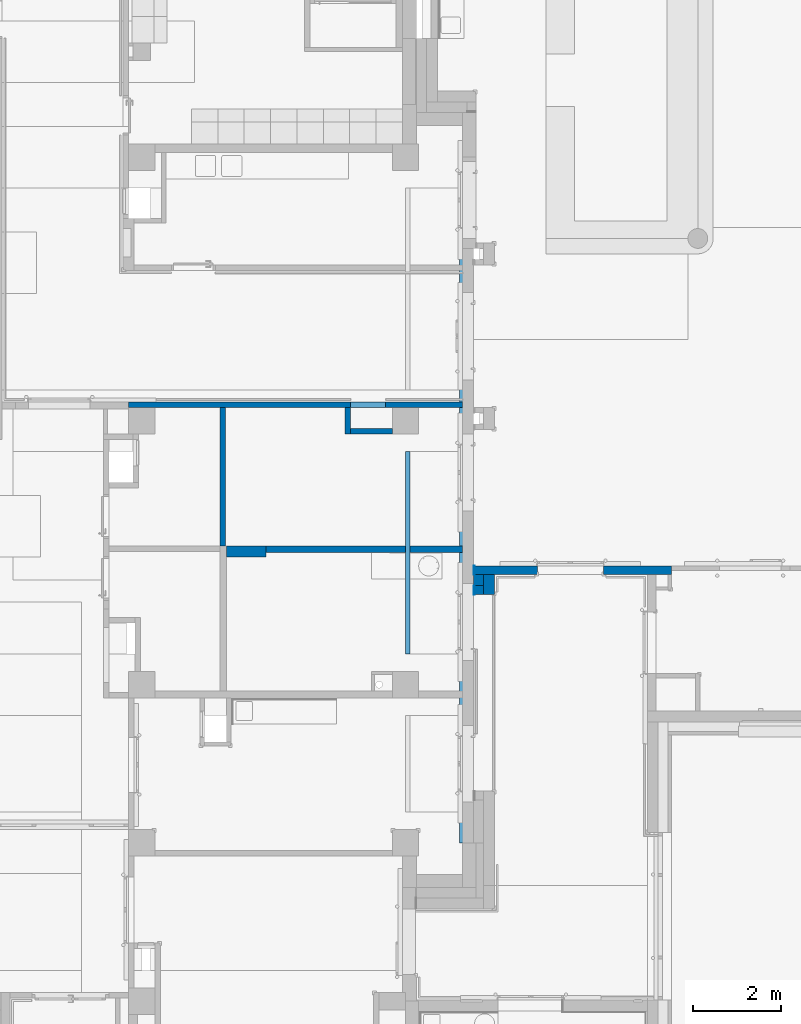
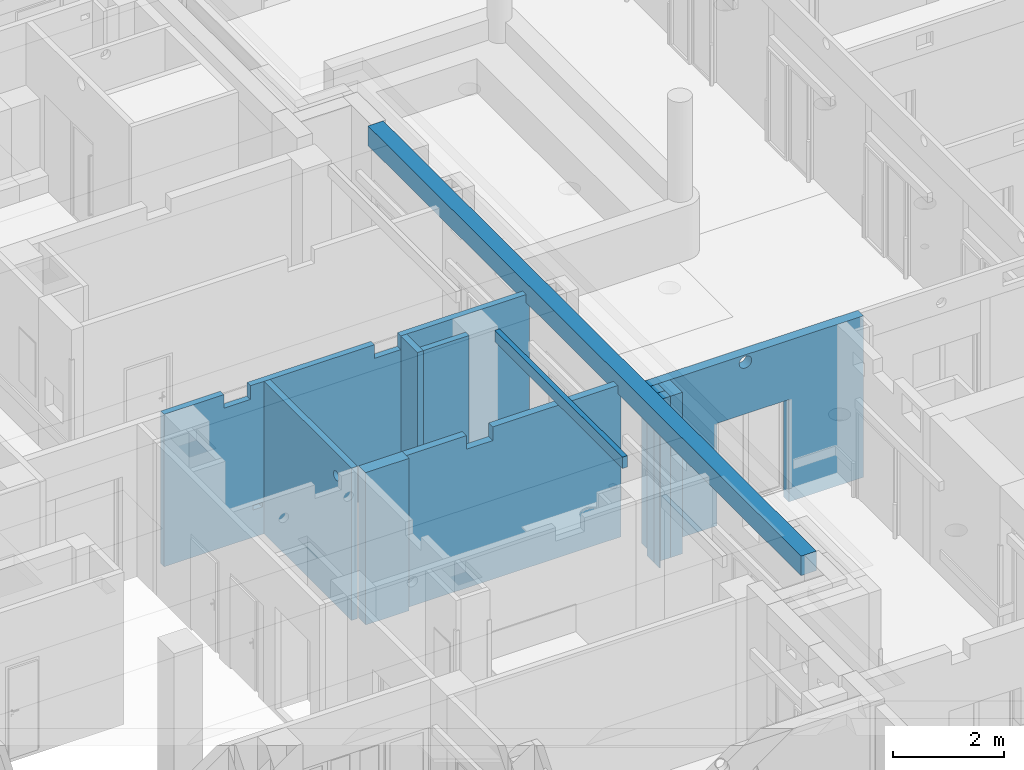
# One storey, part 42 of 140: 14 walls, 10 openings.
"""IFC4 building model written with IfcOpenShell, lengths in metres."""

from ifc_helpers import new_model, entity, si_unit, converted_unit, derived_unit, frame, frame_2d, origin, origin_with_axes, place, context, subcontext, project, spatial, polyline, rectangle, outline, extrude, material, layer, layer_set, layer_usage, element, save


model = new_model("IFC4")

# Units and contexts
model_context = context("Model", 3, precision=1e-05, world=origin())
body_context = subcontext(model_context, "Body", "Model", "MODEL_VIEW")
ifc_project = project(units=[si_unit("LENGTHUNIT", "METRE"), si_unit("AREAUNIT", "SQUARE_METRE"), si_unit("VOLUMEUNIT", "CUBIC_METRE"), si_unit("MASSUNIT", "GRAM", prefix="KILO"), converted_unit("PLANEANGLEUNIT", "DEGREE", entity("IfcPlaneAngleMeasure", 0.0174532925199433), si_unit("PLANEANGLEUNIT", "RADIAN"), dimensions=[0, 0, 0, 0, 0, 0, 0]), derived_unit("THERMALTRANSMITTANCEUNIT", [(si_unit("POWERUNIT", "WATT"), 1), (si_unit("THERMODYNAMICTEMPERATUREUNIT", "KELVIN"), -1), (si_unit("LENGTHUNIT", "METRE"), -2)]), derived_unit("VOLUMETRICFLOWRATEUNIT", [(si_unit("LENGTHUNIT", "METRE"), 3), (converted_unit("TIMEUNIT", "hour", entity("IfcTimeMeasure", 3600.0), si_unit("TIMEUNIT", "SECOND"), dimensions=[0, 0, 1, 0, 0, 0, 0]), -1), (si_unit("LENGTHUNIT", "METRE"), -1)])], contexts=[model_context])

# Site, building, storey
site_placement = place(None, origin())
site = spatial("IfcSite", under=ifc_project, at=site_placement, Name="3. ASŘ", CompositionType="ELEMENT")
building_placement = place(site_placement, origin())
building = spatial("IfcBuilding", under=site, at=building_placement, Name="Pavilon C", CompositionType="ELEMENT")
storey_placement = place(building_placement, origin())
storey = spatial("IfcBuildingStorey", under=building, at=storey_placement, Name="Půdorys 1.NP", CompositionType="ELEMENT", Elevation=0.0)

# Walls
ifc_material_1 = material(Name="EPS")
ifc_layer_1 = layer(ifc_material_1, 0.1)
ifc_layer_set_1 = layer_set([ifc_layer_1])
ifc_layer_usage_1 = layer_usage(ifc_layer_set_1, "AXIS2", "POSITIVE", 0.0)
wall_1_placement = place(storey_placement, frame((49.95, 12.5, 3.25), z_axis=(0.0, 0.0, 1.0), x_axis=(0.0, -1.0, 0.0)))
element("IfcWall", 1, at=wall_1_placement, inside=storey, material=ifc_layer_usage_1, Name="EPS", context=body_context, shape_type="SweptSolid", body=[
    extrude(rectangle(XDim=4.6, YDim=0.1, at=frame_2d((2.3, 0.05), x_axis=(1.0, 0.0))), origin_with_axes(), (0.0, 0.0, 1.0), 0.25),
])
ifc_material_2 = material(Name="ZELEZOBETONOVÁ KCE")
ifc_layer_2 = layer(ifc_material_2, 0.32)
ifc_layer_set_2 = layer_set([ifc_layer_2])
ifc_layer_usage_2 = layer_usage(ifc_layer_set_2, "AXIS2", "POSITIVE", 0.0)
wall_2_placement = place(storey_placement, frame((51.5, 3.6, 3.07), z_axis=(0.0, 0.0, 1.0), x_axis=(0.0, 1.0, 0.0)))
element("IfcWall", 2, at=wall_2_placement, inside=storey, material=ifc_layer_usage_2, Name="ZELEZOBETONOVÁ KCE", context=body_context, shape_type="SweptSolid", body=[
    extrude(rectangle(XDim=15.6, YDim=0.32, at=frame_2d((7.8, 0.16), x_axis=(1.0, 0.0))), origin_with_axes(), (0.0, 0.0, 1.0), 0.43),
])
ifc_material_3 = material(Name="ZELEZOBETONOVÁ KCE")
ifc_layer_3 = layer(ifc_material_3, 0.25)
ifc_layer_set_3 = layer_set([ifc_layer_3])
ifc_layer_usage_3 = layer_usage(ifc_layer_set_3, "AXIS2", "POSITIVE", -0.25)
wall_3_placement = place(storey_placement, frame((51.98, 9.24999999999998, -0.15), z_axis=(0.0, 0.0, 1.0), x_axis=(0.0, 1.0, 0.0)))
element("IfcWall", 3, at=wall_3_placement, inside=storey, material=ifc_layer_usage_3, Name="ZELEZOBETONOVÁ KCE", context=body_context, shape_type="SweptSolid", body=[
    extrude(rectangle(XDim=0.450000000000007, YDim=0.25, at=frame_2d((0.225000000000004, 0.125), x_axis=(1.0, 0.0))), origin_with_axes(), (0.0, 0.0, 1.0), 3.55),
])

# Wall, openings
ifc_material_4 = material(Name="ZELEZOBETONOVÁ KCE")
ifc_layer_4 = layer(ifc_material_4, 0.2)
ifc_layer_set_4 = layer_set([ifc_layer_4])
ifc_layer_usage_4 = layer_usage(ifc_layer_set_4, "AXIS2", "POSITIVE", 0.0)
wall_4_placement = place(storey_placement, frame((56.0, 9.89999999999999, -0.15), z_axis=(0.0, 0.0, 1.0), x_axis=(-1.0, -1.62409768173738e-15, 0.0)))
wall_4 = element("IfcWall", 4, at=wall_4_placement, inside=storey, material=ifc_layer_usage_4, Name="ZELEZOBETONOVÁ KCE", context=body_context, shape_type="SweptSolid", body=[
    extrude(rectangle(XDim=4.47999999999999, YDim=0.2, at=frame_2d((2.23999999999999, 0.1), x_axis=(1.0, 0.0))), origin_with_axes(), (0.0, 0.0, 1.0), 3.55),
])
opening_1_placement = place(wall_4_placement, frame((3.05000000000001, 0.199999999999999, 0.0), z_axis=(-2.27373675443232e-15, -1.0, 0.0), x_axis=(0.0, 0.0, 1.0)))
element("IfcOpeningElement", 5, at=opening_1_placement, cuts=wall_4, Name="Dveřní otvor", ObjectType="Opening", context=body_context, shape_type="SweptSolid", body=[
    extrude(outline(polyline([(0.0, 1.5), (2.25, 1.5), (2.25, 0.0), (0.0, 0.0), (0.0, 1.5)])), origin_with_axes(), (0.0, 0.0, 1.0), 0.2),
])
opening_2_placement = place(wall_4_placement, frame((2.3228945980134, -4.37903746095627e-14, 3.26), z_axis=(2.27373675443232e-15, 1.0, 0.0), x_axis=(0.0, 0.0, 1.0)))
element("IfcOpeningElement", 6, at=opening_2_placement, cuts=wall_4, Name="VZT", ObjectType="Opening", context=body_context, shape_type="SweptSolid", body=[
    extrude(outline(polyline([(0.13, 0.26), (0.143588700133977, 0.259287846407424), (0.157028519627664, 0.257159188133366), (0.170172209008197, 0.253637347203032), (0.182875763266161, 0.248760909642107), (0.194999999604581, 0.242583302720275), (0.206412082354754, 0.235172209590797), (0.216986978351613, 0.226608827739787), (0.226608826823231, 0.216986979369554), (0.235172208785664, 0.206412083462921), (0.242583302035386, 0.195000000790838), (0.248760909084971, 0.182875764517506), (0.253637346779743, 0.170172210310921), (0.257159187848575, 0.157028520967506), (0.259287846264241, 0.14358870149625), (0.26, 0.130000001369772), (0.259287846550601, 0.116411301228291), (0.257159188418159, 0.102971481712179), (0.25363734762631, 0.0898277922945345), (0.248760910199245, 0.0771242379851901), (0.242583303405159, 0.0650000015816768), (0.235172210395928, 0.0535879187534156), (0.226608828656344, 0.0430130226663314), (0.216986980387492, 0.0333911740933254), (0.206412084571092, 0.0248277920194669), (0.195000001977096, 0.0174166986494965), (0.18287576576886, 0.0112390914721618), (0.170172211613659, 0.0063626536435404), (0.157028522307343, 0.00284081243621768), (0.143588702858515, 0.000712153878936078), (0.129999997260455, 0.0), (0.116411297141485, 0.000712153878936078), (0.102971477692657, 0.00284081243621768), (0.0898277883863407, 0.0063626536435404), (0.0771242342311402, 0.0112390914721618), (0.0649999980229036, 0.0174166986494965), (0.0535879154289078, 0.0248277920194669), (0.0430130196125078, 0.0333911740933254), (0.0333911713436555, 0.0430130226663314), (0.0248277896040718, 0.0535879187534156), (0.0174166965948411, 0.0650000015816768), (0.0112390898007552, 0.0771242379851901), (0.00636265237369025, 0.0898277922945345), (0.00284081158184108, 0.102971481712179), (0.000712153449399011, 0.116411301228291), (0.0, 0.130000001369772), (0.00071215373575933, 0.14358870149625), (0.00284081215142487, 0.157028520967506), (0.00636265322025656, 0.170172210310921), (0.011239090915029, 0.182875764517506), (0.0174166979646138, 0.195000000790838), (0.0248277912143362, 0.206412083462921), (0.0333911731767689, 0.216986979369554), (0.0430130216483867, 0.226608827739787), (0.0535879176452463, 0.235172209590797), (0.0650000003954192, 0.242583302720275), (0.0771242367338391, 0.248760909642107), (0.0898277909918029, 0.253637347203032), (0.102971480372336, 0.257159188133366), (0.116411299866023, 0.259287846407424), (0.13, 0.26)])), origin_with_axes(), (0.0, 0.0, 1.0), 0.2),
])

# Walls
ifc_material_5 = material(Name="ZELEZOBETONOVÁ KCE")
ifc_layer_5 = layer(ifc_material_5, 0.2)
ifc_layer_set_5 = layer_set([ifc_layer_5])
ifc_layer_usage_5 = layer_usage(ifc_layer_set_5, "AXIS2", "POSITIVE", -0.2)
wall_5_placement = place(storey_placement, frame((51.73, 9.44999999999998, -0.15), z_axis=(0.0, 0.0, 1.0), x_axis=(-1.0, 0.0, 0.0)))
element("IfcWall", 7, at=wall_5_placement, inside=storey, material=ifc_layer_usage_5, Name="ZELEZOBETONOVÁ KCE", context=body_context, shape_type="SweptSolid", body=[
    extrude(rectangle(XDim=0.21, YDim=0.2, at=frame_2d((0.105, 0.1), x_axis=(1.0, 0.0))), origin_with_axes(), (0.0, 0.0, 1.0), 3.55),
])
ifc_material_6 = material(Name="EPS")
ifc_layer_6 = layer(ifc_material_6, 0.02)
ifc_layer_set_6 = layer_set([ifc_layer_6])
ifc_layer_usage_6 = layer_usage(ifc_layer_set_6, "AXIS2", "POSITIVE", 0.0)
wall_6_placement = place(storey_placement, frame((51.52, 9.24999999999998, -0.3), z_axis=(0.0, 0.0, 1.0), x_axis=(0.0, 1.0, 0.0)))
element("IfcWall", 8, at=wall_6_placement, inside=storey, material=ifc_layer_usage_6, Name="EPS", context=body_context, shape_type="SweptSolid", body=[
    extrude(rectangle(XDim=0.2, YDim=0.02, at=frame_2d((0.1, 0.01), x_axis=(1.0, 0.0))), origin_with_axes(), (0.0, 0.0, 1.0), 3.7),
])
ifc_material_7 = material(Name="EPS")
ifc_layer_7 = layer(ifc_material_7, 0.02)
ifc_layer_set_7 = layer_set([ifc_layer_7])
ifc_layer_usage_7 = layer_usage(ifc_layer_set_7, "AXIS2", "POSITIVE", 0.0)
wall_7_placement = place(storey_placement, frame((51.52, 9.69999999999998, -0.15), z_axis=(0.0, 0.0, 1.0), x_axis=(0.0, 1.0, 0.0)))
element("IfcWall", 9, at=wall_7_placement, inside=storey, material=ifc_layer_usage_7, Name="EPS", context=body_context, shape_type="SweptSolid", body=[
    extrude(rectangle(XDim=0.199999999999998, YDim=0.02, at=frame_2d((0.0999999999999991, 0.01), x_axis=(1.0, 0.0))), origin_with_axes(), (0.0, 0.0, 1.0), 3.55),
])
ifc_material_8 = material(Name="EPS")
ifc_layer_8 = layer(ifc_material_8, 0.23)
ifc_layer_set_8 = layer_set([ifc_layer_8])
ifc_layer_usage_8 = layer_usage(ifc_layer_set_8, "AXIS2", "POSITIVE", 0.0)
wall_8_placement = place(storey_placement, frame((51.73, 9.44999999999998, -0.3), z_axis=(0.0, 0.0, 1.0), x_axis=(0.0, 1.0, 0.0)))
element("IfcWall", 10, at=wall_8_placement, inside=storey, material=ifc_layer_usage_8, Name="EPS", context=body_context, shape_type="SweptSolid", body=[
    extrude(rectangle(XDim=0.250000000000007, YDim=0.23, at=frame_2d((0.125000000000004, 0.115), x_axis=(1.0, 0.0))), origin_with_axes(), (0.0, 0.0, 1.0), 3.7),
])

# Wall, opening
ifc_material_9 = material(Name="SDK - 1 KCE + DVOJITÉ OPLÁŠTĚNÍ")
ifc_layer_9 = layer(ifc_material_9, 0.125)
ifc_layer_set_9 = layer_set([ifc_layer_9])
ifc_layer_usage_9 = layer_usage(ifc_layer_set_9, "AXIS2", "POSITIVE", 0.0)
wall_9_placement = place(storey_placement, frame((45.855, 10.35, -0.1), z_axis=(0.0, 0.0, 1.0), x_axis=(0.0, 1.0, 0.0)))
wall_9 = element("IfcWall", 11, at=wall_9_placement, inside=storey, material=ifc_layer_usage_9, Name="SDK - 1 KCE + DVOJITÉ OPLÁŠTĚNÍ", context=body_context, shape_type="SweptSolid", body=[
    extrude(rectangle(XDim=3.15000000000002, YDim=0.125, at=frame_2d((1.57500000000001, 0.0625), x_axis=(1.0, 0.0))), origin_with_axes(), (0.0, 0.0, 1.0), 3.35),
])
opening_3_placement = place(wall_9_placement, frame((0.65, 0.125, 2.75), z_axis=(0.0, -1.0, 0.0), x_axis=(0.0, 0.0, 1.0)))
element("IfcOpeningElement", 12, at=opening_3_placement, cuts=wall_9, Name="VZT", ObjectType="Opening", context=body_context, shape_type="SweptSolid", body=[
    extrude(outline(polyline([(0.0999999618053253, 0.0), (0.0895471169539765, 0.000547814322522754), (0.0792087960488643, 0.00218524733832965), (0.0690982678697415, 0.00489435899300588), (0.0593263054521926, 0.00864546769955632), (0.0499999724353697, 0.0133974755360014), (0.041221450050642, 0.0190983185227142), (0.033086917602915, 0.0256855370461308), (0.025685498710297, 0.033086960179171), (0.01909828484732, 0.0412214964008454), (0.0133974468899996, 0.0500000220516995), (0.00864544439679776, 0.0593263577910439), (0.00489434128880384, 0.0690983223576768), (0.00218523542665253, 0.0792088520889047), (0.000547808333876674, 0.089547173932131), (0.0, 0.100000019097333), (0.000547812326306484, 0.110452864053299), (0.00218524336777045, 0.120791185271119), (0.00489435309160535, 0.130901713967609), (0.00864545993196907, 0.14067367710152), (0.0133974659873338, 0.150000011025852), (0.0190983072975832, 0.158778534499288), (0.0256855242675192, 0.166913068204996), (0.0330869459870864, 0.174314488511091), (0.0412214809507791, 0.180901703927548), (0.0500000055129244, 0.186602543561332), (0.0593263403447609, 0.191354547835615), (0.0690983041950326, 0.195105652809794), (0.0792088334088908, 0.197814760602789), (0.0895471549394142, 0.199452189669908), (0.0999999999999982, 0.2), (0.110452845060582, 0.199452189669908), (0.120791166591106, 0.197814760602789), (0.130901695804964, 0.195105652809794), (0.140673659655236, 0.191354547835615), (0.149999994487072, 0.186602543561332), (0.158778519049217, 0.180901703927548), (0.16691305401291, 0.174314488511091), (0.174314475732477, 0.166913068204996), (0.180901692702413, 0.158778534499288), (0.186602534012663, 0.150000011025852), (0.191354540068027, 0.14067367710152), (0.195105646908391, 0.130901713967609), (0.197814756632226, 0.120791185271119), (0.19945218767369, 0.110452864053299), (0.199999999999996, 0.100000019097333), (0.19945219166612, 0.089547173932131), (0.197814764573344, 0.0792088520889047), (0.195105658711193, 0.0690983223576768), (0.191354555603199, 0.0593263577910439), (0.186602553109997, 0.0500000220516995), (0.180901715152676, 0.0412214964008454), (0.174314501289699, 0.033086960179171), (0.166913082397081, 0.0256855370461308), (0.158778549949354, 0.0190983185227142), (0.150000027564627, 0.0133974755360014), (0.140673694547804, 0.00864546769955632), (0.130901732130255, 0.00489435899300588), (0.120791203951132, 0.00218524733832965), (0.11045288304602, 0.000547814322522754), (0.0999999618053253, 0.0)])), origin_with_axes(), (0.0, 0.0, 1.0), 0.125),
])

# Wall
ifc_material_10 = material(Name="SDK - 2 KCE + DVOJITÉ OPLÁŠTĚNÍ")
ifc_layer_10 = layer(ifc_material_10, 0.25)
ifc_layer_set_10 = layer_set([ifc_layer_10])
ifc_layer_usage_10 = layer_usage(ifc_layer_set_10, "AXIS2", "POSITIVE", 0.0)
wall_10_placement = place(storey_placement, frame((46.78, 10.35, -0.1), z_axis=(0.0, 0.0, 1.0), x_axis=(-1.0, 0.0, 0.0)))
element("IfcWall", 13, at=wall_10_placement, inside=storey, material=ifc_layer_usage_10, Name="SDK - 2 KCE + DVOJITÉ OPLÁŠTĚNÍ", context=body_context, shape_type="SweptSolid", body=[
    extrude(rectangle(XDim=0.9, YDim=0.25, at=frame_2d((0.45, 0.125), x_axis=(1.0, 0.0))), origin_with_axes(), (0.0, 0.0, 1.0), 3.35),
])

# Wall, opening
ifc_material_11 = material(Name="SDK - 1 KCE + DVOJITÉ OPLÁŠTĚNÍ")
ifc_layer_11 = layer(ifc_material_11, 0.15)
ifc_layer_set_11 = layer_set([ifc_layer_11])
ifc_layer_usage_11 = layer_usage(ifc_layer_set_11, "AXIS2", "POSITIVE", 0.0)
wall_11_placement = place(storey_placement, frame((51.25, 10.35, -0.1), z_axis=(0.0, 0.0, 1.0), x_axis=(-1.0, 0.0, 0.0)))
wall_11 = element("IfcWall", 14, at=wall_11_placement, inside=storey, material=ifc_layer_usage_11, Name="SDK - 1 KCE + DVOJITÉ OPLÁŠTĚNÍ", context=body_context, shape_type="SweptSolid", body=[
    extrude(rectangle(XDim=4.47, YDim=0.15, at=frame_2d((2.235, 0.075), x_axis=(1.0, 0.0))), origin_with_axes(), (0.0, 0.0, 1.0), 3.35),
])
opening_4_placement = place(wall_11_placement, frame((3.21721280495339, 0.15, 3.05), z_axis=(0.0, -1.0, 0.0), x_axis=(0.0, 0.0, 1.0)))
element("IfcOpeningElement", 15, at=opening_4_placement, cuts=wall_11, Name="VZT", ObjectType="Opening", context=body_context, shape_type="SweptSolid", body=[
    extrude(outline(polyline([(0.0, 0.55), (0.3, 0.55), (0.3, 0.0), (0.0, 0.0), (0.0, 0.55)])), origin_with_axes(), (0.0, 0.0, 1.0), 0.15),
])

# Walls
ifc_material_12 = material(Name="SDK - 1 KCE + DVOJITÉ OPLÁŠTĚNÍ")
ifc_layer_12 = layer(ifc_material_12, 0.124999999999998)
ifc_layer_set_12 = layer_set([ifc_layer_12])
ifc_layer_usage_12 = layer_usage(ifc_layer_set_12, "AXIS2", "POSITIVE", 0.0)
wall_12_placement = place(storey_placement, frame((48.7, 12.9, -0.1)))
element("IfcWall", 16, at=wall_12_placement, inside=storey, material=ifc_layer_usage_12, Name="SDK - 1 KCE + DVOJITÉ OPLÁŠTĚNÍ", context=body_context, shape_type="SweptSolid", body=[
    extrude(rectangle(XDim=0.95, YDim=0.124999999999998, at=frame_2d((0.475, 0.0624999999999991), x_axis=(1.0, 0.0))), origin_with_axes(), (0.0, 0.0, 1.0), 3.35),
])
ifc_material_13 = material(Name="SDK - 1 KCE + DVOJITÉ OPLÁŠTĚNÍ")
ifc_layer_13 = layer(ifc_material_13, 0.125)
ifc_layer_set_13 = layer_set([ifc_layer_13])
ifc_layer_usage_13 = layer_usage(ifc_layer_set_13, "AXIS2", "POSITIVE", 0.0)
wall_13_placement = place(storey_placement, frame((48.7, 12.9, -0.1), z_axis=(0.0, 0.0, 1.0), x_axis=(0.0, 1.0, 0.0)))
element("IfcWall", 17, at=wall_13_placement, inside=storey, material=ifc_layer_usage_13, Name="SDK - 1 KCE + DVOJITÉ OPLÁŠTĚNÍ", context=body_context, shape_type="SweptSolid", body=[
    extrude(rectangle(XDim=0.599999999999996, YDim=0.125, at=frame_2d((0.299999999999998, 0.0625), x_axis=(1.0, 0.0))), origin_with_axes(), (0.0, 0.0, 1.0), 3.35),
])

# Wall, openings
ifc_material_14 = material(Name="SDK - 1 KCE + DVOJITÉ OPLÁŠTĚNÍ")
ifc_layer_14 = layer(ifc_material_14, 0.124999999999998)
ifc_layer_set_14 = layer_set([ifc_layer_14])
ifc_layer_usage_14 = layer_usage(ifc_layer_set_14, "AXIS2", "POSITIVE", 0.0)
wall_14_placement = place(storey_placement, frame((51.25, 13.625, -0.1), z_axis=(0.0, 0.0, 1.0), x_axis=(-1.0, 7.18022132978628e-16, 0.0)))
wall_14 = element("IfcWall", 18, at=wall_14_placement, inside=storey, material=ifc_layer_usage_14, Name="SDK - 1 KCE + DVOJITÉ OPLÁŠTĚNÍ", context=body_context, shape_type="SweptSolid", body=[
    extrude(rectangle(XDim=7.6, YDim=0.124999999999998, at=frame_2d((3.8, 0.0624999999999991), x_axis=(1.0, 0.0))), origin_with_axes(), (0.0, 0.0, 1.0), 3.35),
])
opening_5_placement = place(wall_14_placement, frame((1.75, -5.62450670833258e-16, 0.1), z_axis=(0.0, 1.0, 0.0), x_axis=(0.0, 0.0, 1.0)))
element("IfcOpeningElement", 19, at=opening_5_placement, cuts=wall_14, Name="Dveřní otvor", ObjectType="Opening", context=body_context, shape_type="SweptSolid", body=[
    extrude(outline(polyline([(0.0, 0.8), (2.0, 0.8), (2.0, 0.0), (0.0, 0.0), (0.0, 0.8)])), origin_with_axes(), (0.0, 0.0, 1.0), 0.125000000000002),
])
opening_6_placement = place(wall_14_placement, frame((6.35442642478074, 0.124999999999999, 3.05), z_axis=(0.0, -1.0, 0.0), x_axis=(0.0, 0.0, 1.0)))
element("IfcOpeningElement", 20, at=opening_6_placement, cuts=wall_14, Name="VZT", ObjectType="Opening", context=body_context, shape_type="SweptSolid", body=[
    extrude(outline(polyline([(0.0, 0.55), (0.3, 0.55), (0.3, 0.0), (0.0, 0.0), (0.0, 0.55)])), origin_with_axes(), (0.0, 0.0, 1.0), 0.125),
])
opening_7_placement = place(wall_14_placement, frame((5.35722419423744, 0.125, 2.9), z_axis=(0.0, -1.0, 0.0), x_axis=(0.0, 0.0, 1.0)))
element("IfcOpeningElement", 21, at=opening_7_placement, cuts=wall_14, Name="CHL", ObjectType="Opening", context=body_context, shape_type="SweptSolid", body=[
    extrude(outline(polyline([(0.0, 0.1), (0.15, 0.1), (0.15, 0.0), (0.0, 0.0), (0.0, 0.1)])), origin_with_axes(), (0.0, 0.0, 1.0), 0.125),
])
opening_8_placement = place(wall_14_placement, frame((2.925, 0.125, 0.6), z_axis=(0.0, -1.0, 0.0), x_axis=(0.0, 0.0, 1.0)))
element("IfcOpeningElement", 22, at=opening_8_placement, cuts=wall_14, Name="VZT", ObjectType="Opening", context=body_context, shape_type="SweptSolid", body=[
    extrude(outline(polyline([(0.0, 0.2), (0.1, 0.2), (0.1, 0.0), (0.0, 0.0), (0.0, 0.2)])), origin_with_axes(), (0.0, 0.0, 1.0), 0.124999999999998),
])
opening_9_placement = place(wall_14_placement, frame((3.225, 0.125, 3.05), z_axis=(0.0, -1.0, 0.0), x_axis=(0.0, 0.0, 1.0)))
element("IfcOpeningElement", 23, at=opening_9_placement, cuts=wall_14, Name="VZT", ObjectType="Opening", context=body_context, shape_type="SweptSolid", body=[
    extrude(outline(polyline([(0.0, 0.55), (0.3, 0.55), (0.3, 0.0), (0.0, 0.0), (0.0, 0.55)])), origin_with_axes(), (0.0, 0.0, 1.0), 0.125),
])
opening_10_placement = place(wall_14_placement, frame((5.75442642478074, 0.124999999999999, 0.6), z_axis=(0.0, -1.0, 0.0), x_axis=(0.0, 0.0, 1.0)))
element("IfcOpeningElement", 24, at=opening_10_placement, cuts=wall_14, Name="VZT", ObjectType="Opening", context=body_context, shape_type="SweptSolid", body=[
    extrude(outline(polyline([(0.0, 0.2), (0.1, 0.2), (0.1, 0.0), (0.0, 0.0), (0.0, 0.2)])), origin_with_axes(), (0.0, 0.0, 1.0), 0.124999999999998),
])

save(model, "model.ifc")
